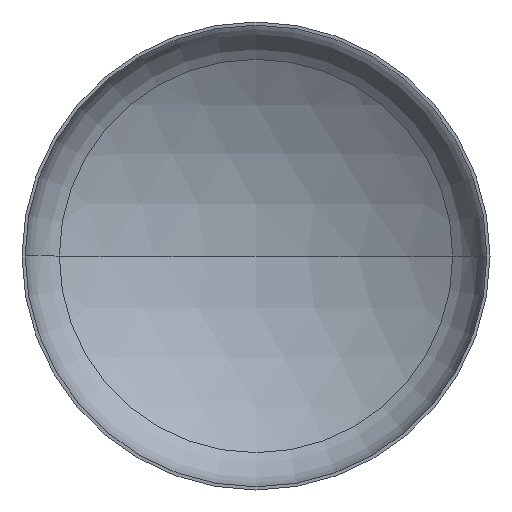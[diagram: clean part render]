
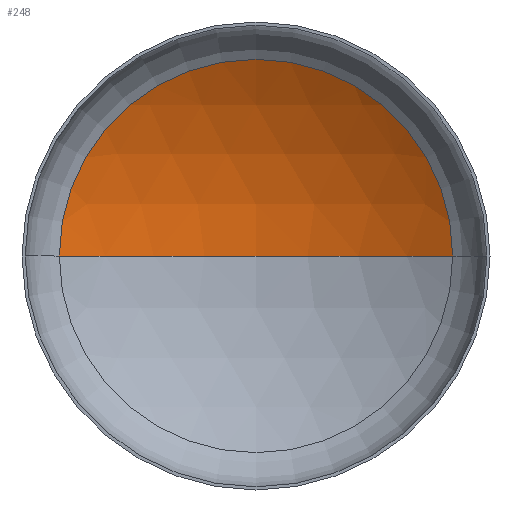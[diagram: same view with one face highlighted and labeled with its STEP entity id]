
A CAD part, front view. The second image highlights one B-rep face of the part: STEP entity #248.
In plain terms, the highlighted spherical face has radius 3200 mm.
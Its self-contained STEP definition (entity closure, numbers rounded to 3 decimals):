
#3 = CARTESIAN_POINT ( 'NONE',  ( 0., -2114.559, 0. ) ) ;
#21 = AXIS2_PLACEMENT_3D ( 'NONE', #224, #388, #249 ) ;
#23 = AXIS2_PLACEMENT_3D ( 'NONE', #320, #181, #343 ) ;
#24 = ORIENTED_EDGE ( 'NONE', *, *, #354, .T. ) ;
#35 = ORIENTED_EDGE ( 'NONE', *, *, #348, .F. ) ;
#36 = AXIS2_PLACEMENT_3D ( 'NONE', #289, #136, #318 ) ;
#76 = CIRCLE ( 'NONE', #23, 1681.083 ) ;
#83 = AXIS2_PLACEMENT_3D ( 'NONE', #3, #192, #94 ) ;
#85 = VERTEX_POINT ( 'NONE', #251 ) ;
#94 = DIRECTION ( 'NONE',  ( -1., 0., 0. ) ) ;
#96 = EDGE_LOOP ( 'NONE', ( #35, #24, #132 ) ) ;
#108 = VERTEX_POINT ( 'NONE', #254 ) ;
#117 = VERTEX_POINT ( 'NONE', #247 ) ;
#132 = ORIENTED_EDGE ( 'NONE', *, *, #353, .T. ) ;
#136 = DIRECTION ( 'NONE',  ( 0., 0., 1. ) ) ;
#167 = SPHERICAL_SURFACE ( 'NONE', #83, 3200. ) ;
#175 = FACE_OUTER_BOUND ( 'NONE', #96, .T. ) ;
#181 = DIRECTION ( 'NONE',  ( 0., -1., 0. ) ) ;
#192 = DIRECTION ( 'NONE',  ( 0., 0., -1. ) ) ;
#198 = CIRCLE ( 'NONE', #21, 3200. ) ;
#224 = CARTESIAN_POINT ( 'NONE',  ( 0., -2114.559, 0. ) ) ;
#247 = CARTESIAN_POINT ( 'NONE',  ( -1681.083, 608.299, 0. ) ) ;
#248 = ADVANCED_FACE ( 'NONE', ( #175 ), #167, .F. ) ;
#249 = DIRECTION ( 'NONE',  ( -1., 0., 0. ) ) ;
#251 = CARTESIAN_POINT ( 'NONE',  ( 1681.083, 608.299, 0. ) ) ;
#254 = CARTESIAN_POINT ( 'NONE',  ( 0., 1085.441, 0. ) ) ;
#289 = CARTESIAN_POINT ( 'NONE',  ( 0., -2114.559, 0. ) ) ;
#318 = DIRECTION ( 'NONE',  ( 1., 0., 0. ) ) ;
#320 = CARTESIAN_POINT ( 'NONE',  ( 0., 608.299, 0. ) ) ;
#328 = CIRCLE ( 'NONE', #36, 3200. ) ;
#343 = DIRECTION ( 'NONE',  ( 1., 0., 0. ) ) ;
#348 = EDGE_CURVE ( 'NONE', #108, #117, #328, .T. ) ;
#353 = EDGE_CURVE ( 'NONE', #85, #117, #76, .T. ) ;
#354 = EDGE_CURVE ( 'NONE', #108, #85, #198, .T. ) ;
#388 = DIRECTION ( 'NONE',  ( 0., 0., -1. ) ) ;
